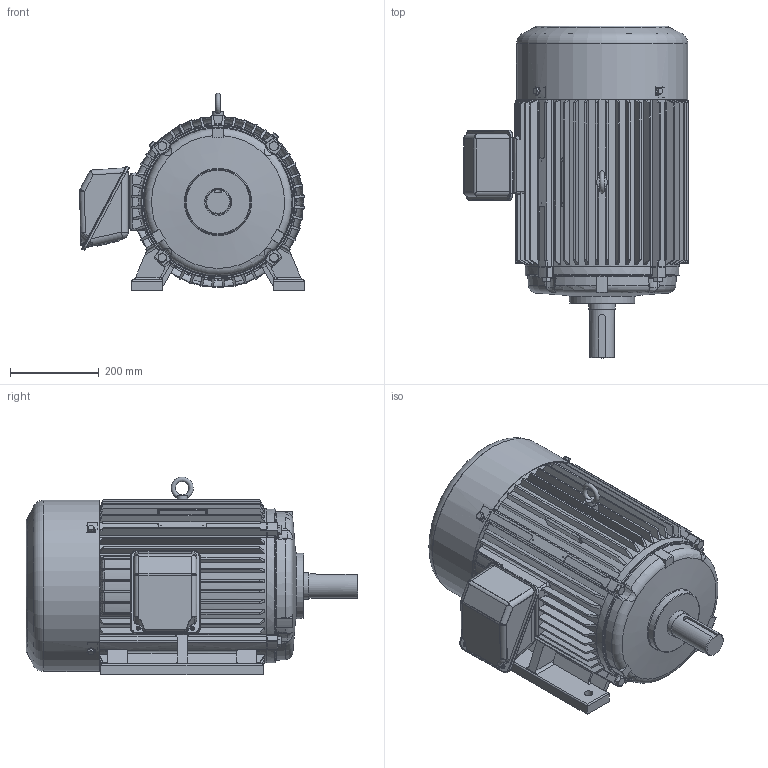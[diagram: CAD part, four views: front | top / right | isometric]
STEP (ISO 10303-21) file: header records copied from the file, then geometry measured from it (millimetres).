
FILE_DESCRIPTION(/* description */ ('Unknown'),/* implementation_level */ '2;1');
FILE_NAME(/* name */ '1-SMA-31989_외형도(330DIA)',/* time_stamp */ '2026-07-24T08:33:31+09:00',/* author */ ('Unknown'),/* organization */ ('Unknown'),/* preprocessor_version */ 'ST-DEVELOPER v16',/* originating_system */ 'DEX',/* authorisation */ $);
FILE_SCHEMA (('AUTOMOTIVE_DESIGN {1 0 10303 214 3 1 1}'));
Length unit declared in the file: millimetre
Products named in the file (19): 1-SMA-31989_¿ÜÇüµµ(330DIxÆÖÄ³(; 2-SMA-31048_FRAME(330DIA); 3-SMA-31049_擅粽塭鰍(330D; 4-SMA-31050_µÚºê¶óÄÏ(330D´¾|·Ï(; 5-SMA-31052A_SHAFT(330DIA); 6-SMA-31247_FAN(330DIA); 7-SMA-31053-1_FAN COVER(330DIA); I獐お M12x1.75x22; 幫陝獐お M12x1.75x1; 腊阿敲罚瘤 M8x1.25x1.25x10L; 6312ZZ; 蹴辨 S5ean_Korea.949; 18.5~37kW_ﾅﾍｹﾌｳﾎ ｹﾚｽｺ(300~330ｼ､ﾂ(; T-BOXｾﾐﾆﾇ(300~330DIA; 18.5~37kW_ｰ晥ｫﾆﾐﾅｷ(300~330Dﾐ(; 褊濠 菅斬 該葬 獐お M5x; 9-SMA-33053_T-BOX(ж); 8-SMA-33052_T-BOX(鼻); 6311ZZ
Assembly tree (29 placements, depth 3):
  1-SMA-31989_¿ÜÇüµµ(330DIxÆÖÄ³(
    2-SMA-31048_FRAME(330DIA)
    3-SMA-31049_擅粽塭鰍(330D
    4-SMA-31050_µÚºê¶óÄÏ(330D´¾|·Ï(
    5-SMA-31052A_SHAFT(330DIA)
    6-SMA-31247_FAN(330DIA)
    7-SMA-31053-1_FAN COVER(330DIA)
    I獐お M12x1.75x22
    幫陝獐お M12x1.75x1  x8
    腊阿敲罚瘤 M8x1.25x1.25x10L  x4
    6312ZZ
    蹴辨 S5ean_Korea.949
    18.5~37kW_ﾅﾍｹﾌｳﾎ ｹﾚｽｺ(300~330ｼ､ﾂ(
      T-BOXｾﾐﾆﾇ(300~330DIA
      18.5~37kW_ｰ晥ｫﾆﾐﾅｷ(300~330Dﾐ(
      褊濠 菅斬 該葬 獐お M5x  x2
      9-SMA-33053_T-BOX(ж)
      8-SMA-33052_T-BOX(鼻)
    6311ZZ
Bounding box: 505.21 x 745.99 x 444.59 mm (x, y, z)
Volume: 14256951.5 mm3; surface area: 3661380.3 mm2
Topology: 50 solids, 50 shells, 2511 faces, 6377 edges, 3954 vertices
Faces by surface type: cylinder 760, plane 754, cone 469, bspline 270, torus 218, sphere 40
Full cylindrical faces by diameter (mm): 2.2 x4, 2.5 x2, 4.134 x2, 5 x2, 6 x2, 6.647 x7, 7 x2, 8 x14, 9 x2, 10.106 x17, 12 x18, 14 x8, 17.5 x4, 19 x4, 25 x1, 50 x4, 54.8 x1, 55 x3, 55.8 x1, 59.8 x1, 60 x2, 60.8 x1, 65.1 x1, 68 x2, 69 x1, 72 x1, 73.571 x2, 73.971 x2, 76 x1, 77 x2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
Entity records: 103132 total; most frequent: CARTESIAN_POINT 41825, ORIENTED_EDGE 11142, DIRECTION 10631, EDGE_CURVE 5571, AXIS2_PLACEMENT_3D 4326, VERTEX_POINT 3609, FACE_BOUND 2730, EDGE_LOOP 2701
